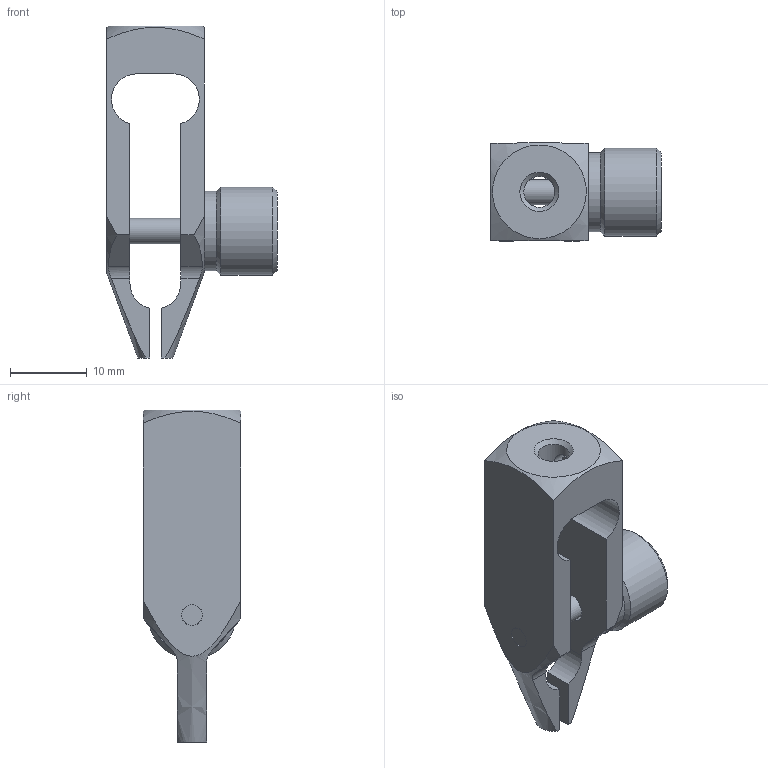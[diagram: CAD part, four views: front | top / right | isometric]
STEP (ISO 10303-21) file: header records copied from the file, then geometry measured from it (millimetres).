
FILE_DESCRIPTION((''),'2;1');
FILE_NAME('F:\CAD files\Itr\3D MARKETING MODELS\GRIPS\G1003\G1003.stp','2017-04-20T13:04:06',('mlampen'),(''),'Autodesk Inventor 2010','Autodesk Inventor 2010','');
FILE_SCHEMA(('AUTOMOTIVE_DESIGN { 1 0 10303 214 1 1 1 1 }'));
Length unit declared in the file: inch
Products named in the file (3): Assembly1; Part2; Part4
Assembly tree (2 placements, depth 2):
  Assembly1
    Part2
    Part4
Bounding box: 22.23 x 12.7 x 43.18 mm (x, y, z)
Volume: 3667 mm3; surface area: 3126.9 mm2
Topology: 2 solids, 2 shells, 84 faces, 202 edges, 125 vertices
Faces by surface type: plane 38, cone 26, cylinder 20
Full cylindrical faces by diameter (mm): 2.705 x2, 3.302 x1, 3.81 x1, 4.039 x1, 10.312 x1, 11.43 x1
Entity records: 2490 total; most frequent: CARTESIAN_POINT 590, DIRECTION 382, ORIENTED_EDGE 358, EDGE_CURVE 179, AXIS2_PLACEMENT_3D 153, VERTEX_POINT 119, EDGE_LOOP 110, FACE_OUTER_BOUND 84
